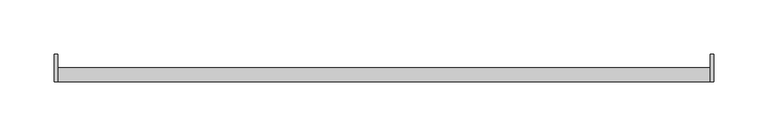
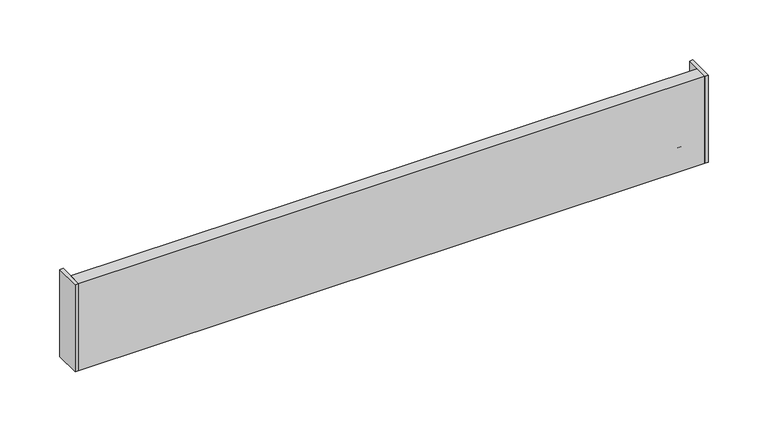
"""IFC4 building model written with IfcOpenShell, lengths in millimetres: furniture geometry."""

from ifc_helpers import new_model, si_unit, frame, origin, place, context, project, spatial, polyline, outline, extrude, source, transform, mapped, element, save


def furniture_2520e590(model_context):
    return source(origin(), model_context, "Body", "SweptSolid", [
        extrude(outline(polyline([(-301.625, 12.6999996), (-301.625, -12.7000004), (-304.8, -12.7000004), (-304.8, 12.6999996), (-301.625, 12.6999996)])), frame((0.0, 0.0, 977.9), z_axis=(0.0, 0.0, 1.0), x_axis=(1.0, 0.0, 0.0)), (0.0, 0.0, 1.0), 88.9),
        extrude(outline(polyline([(304.8, 12.6999996), (304.8, -12.7000004), (301.625, -12.7000004), (301.625, 12.6999996), (304.8, 12.6999996)])), frame((0.0, 0.0, 977.9), z_axis=(0.0, 0.0, 1.0), x_axis=(1.0, 0.0, 0.0)), (0.0, 0.0, 1.0), 88.9),
        extrude(outline(polyline([(301.625, 0.0), (301.625, -12.7000004), (-301.625, -12.7000004), (-301.625, 0.0), (301.625, 0.0)])), frame((0.0, 0.0, 977.9), z_axis=(0.0, 0.0, 1.0), x_axis=(1.0, 0.0, 0.0)), (0.0, 0.0, 1.0), 88.9),
        extrude(outline(polyline([(-12.7000004, 1054.0999966), (-12.7000004, 1066.8), (0.0, 1066.8), (0.0, 977.9), (-12.7000004, 977.9), (-12.7000004, 1003.2999966), (-3.1750002, 1003.2999966), (-3.1750002, 1015.9999966), (-12.7000004, 1015.9999966), (-12.7000004, 1041.3999966), (-3.1750002, 1041.3999966), (-3.1750002, 1054.0999966), (-12.7000004, 1054.0999966)])), frame((-301.625, 0.0, 0.0), z_axis=(1.0, 0.0, 0.0), x_axis=(0.0, 1.0, 0.0)), (0.0, 0.0, 1.0), 603.25),
        extrude(outline(polyline([(-12.7000004, 1066.8), (0.0, 1066.8), (0.0, 1054.0999966), (12.6999996, 1054.0999966), (12.6999996, 990.599997), (0.0, 990.599997), (0.0, 977.9), (-12.7000004, 977.9), (-12.7000004, 1066.8)])), frame((-304.8, 0.0, 0.0), z_axis=(1.0, 0.0, 0.0), x_axis=(0.0, 1.0, 0.0)), (0.0, 0.0, 1.0), 3.175),
        extrude(outline(polyline([(-12.7000004, 1066.8), (0.0, 1066.8), (0.0, 1054.0999966), (12.6999996, 1054.0999966), (12.6999996, 990.599997), (0.0, 990.599997), (0.0, 977.9), (-12.7000004, 977.9), (-12.7000004, 1066.8)])), frame((301.625, 0.0, 0.0), z_axis=(1.0, 0.0, 0.0), x_axis=(0.0, 1.0, 0.0)), (0.0, 0.0, 1.0), 3.175),
    ])


if __name__ == "__main__":
    model = new_model("IFC4")
    model_context = context("Model", 3, world=origin())
    ifc_project = project(units=[si_unit("LENGTHUNIT", "METRE", prefix="MILLI")], contexts=[model_context])
    site = spatial("IfcSite", under=ifc_project)
    building = spatial("IfcBuilding", under=site)
    placement = place(None, origin())
    furniture_shape = furniture_2520e590(model_context)
    element("IfcFurniture", 1, ObjectType="HermanMiller_ActionOffice_A3610_ToolBar : 4\"H x 24\"W", at=placement, inside=building, context=model_context, shape_type="MappedRepresentation", body=[
        mapped(furniture_shape, transform((0.0, 0.0, 0.0), x_axis=(1.0, 0.0, 0.0), y_axis=(0.0, 1.0, 0.0), z_axis=(0.0, 0.0, 1.0))),
    ])
    save(model, "model.ifc")
